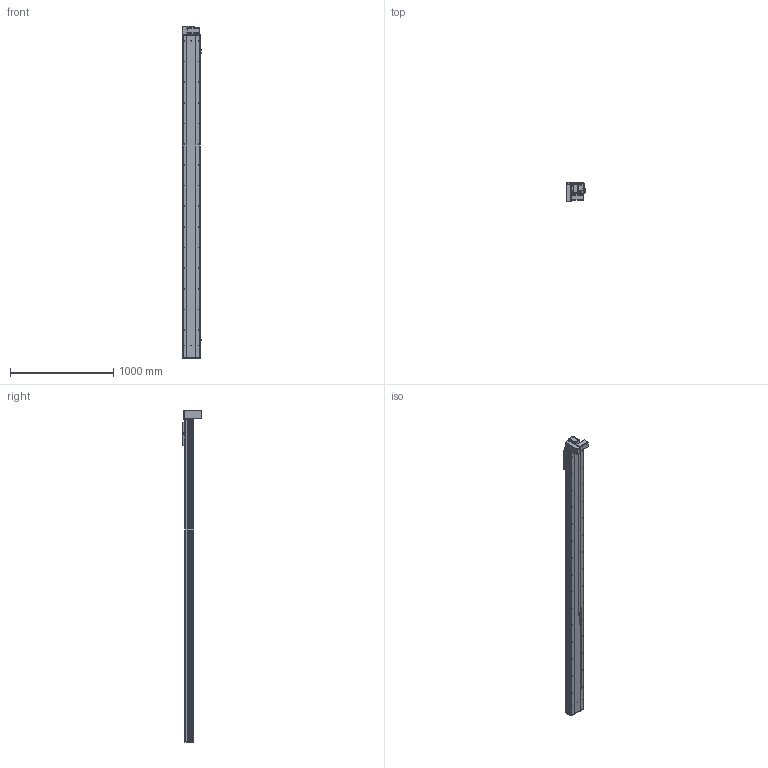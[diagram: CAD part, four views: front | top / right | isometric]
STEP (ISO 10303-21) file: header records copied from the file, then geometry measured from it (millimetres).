
FILE_DESCRIPTION (( 'STEP AP203' ), '1' );
FILE_NAME ('Y170CB-D105-S2800-BM-P400W.STEP', '2020-02-20T07:50:22', ( '微软用户' ), ( '微软中国' ), 'SwSTEP 2.0', 'SolidWorks 2017', '' );
FILE_SCHEMA (( 'CONFIG_CONTROL_DESIGN' ));
Length unit declared in the file: millimetre
Products named in the file (18): Y170CB-陔俋离換覜結え---; --70CB --喘謫眊楊擘啣-; Y1埴倛裔; 70CB-耜裔啣-; 17B-耜蚾蟀諉啣----; 70C--詩湍揤踡え-; 00B-俋欶BM--163; 70CB--耜裔; 70B喘謫眊----; 70C-雄赽釱-奻-; B-源倛裔啣; Y170CB-D105-S2800-BM-P400W; 0C--雄赽釱俋欶-170; 0B-萇儂楊擘啣; 70CB-詩湍--; san松下电机400不带刹车----; Y100-135俋离換覜ん--; 70CB-掛极-
Assembly tree (21 placements, depth 2):
  Y170CB-D105-S2800-BM-P400W
    B-源倛裔啣
    0B-萇儂楊擘啣
    san松下电机400不带刹车----
    70CB-掛极-
    --70CB --喘謫眊楊擘啣-
    70CB-耜裔啣-  x2
    70C--詩湍揤踡え-  x2
    70CB--耜裔
    70C-雄赽釱-奻-
    0C--雄赽釱俋欶-170
    70CB-詩湍--
    Y100-135俋离換覜ん--  x3
    Y170CB-陔俋离換覜結え---
    Y1埴倛裔
    17B-耜蚾蟀諉啣----
    00B-俋欶BM--163
    70B喘謫眊----
Bounding box: 183.5 x 184 x 3216 mm (x, y, z)
Volume: 13626776.4 mm3; surface area: 4924290.1 mm2
Topology: 21 solids, 21 shells, 1079 faces, 2909 edges, 1930 vertices
Faces by surface type: cylinder 593, plane 462, cone 24
Entity records: 34664 total; most frequent: CARTESIAN_POINT 6396, DIRECTION 5642, ORIENTED_EDGE 5300, EDGE_CURVE 2650, AXIS2_PLACEMENT_3D 2088, VERTEX_POINT 1760, LINE 1466, VECTOR 1466
